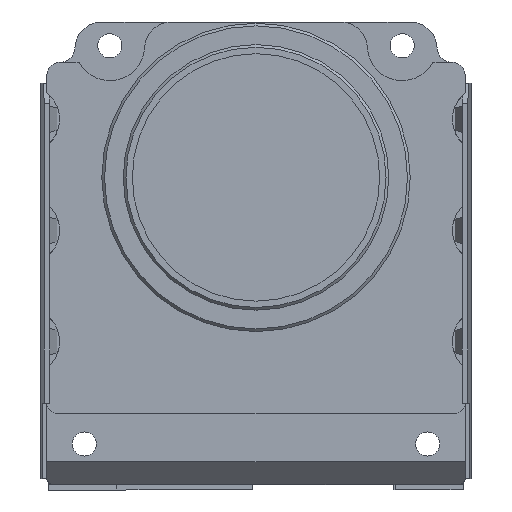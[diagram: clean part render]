
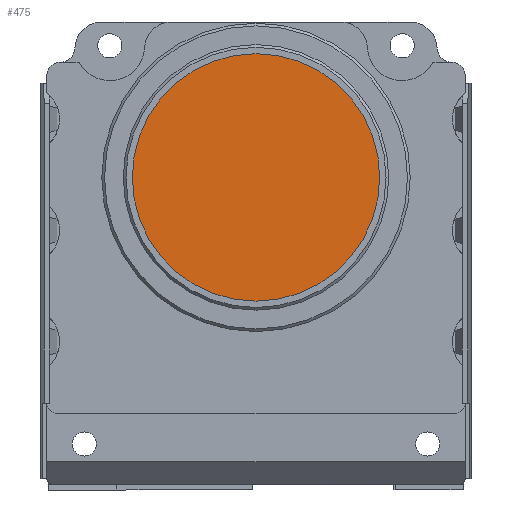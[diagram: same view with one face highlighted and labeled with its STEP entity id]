
A CAD part, front view. The second image highlights one B-rep face of the part: STEP entity #475.
In plain terms, the highlighted planar face has unit normal (0, -1, 0).
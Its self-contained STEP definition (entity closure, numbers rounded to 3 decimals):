
#475=ADVANCED_FACE('',(#1472),#1473,.T.);
#1472=FACE_OUTER_BOUND('',#2847,.T.);
#1473=PLANE('',#2848);
#2847=EDGE_LOOP('',(#6197));
#2848=AXIS2_PLACEMENT_3D('',#6198,#6199,#6200);
#6197=ORIENTED_EDGE('',*,*,#10064,.T.);
#6198=CARTESIAN_POINT('',(4.995,-13.582,-21.102));
#6199=DIRECTION('',(0.0,-1.0,0.0));
#6200=DIRECTION('',(-1.0,0.0,0.0));
#10064=EDGE_CURVE('',#12817,#12817,#12818,.T.);
#12817=VERTEX_POINT('',#16742);
#12818=CIRCLE('',#16743,9.225);
#16742=CARTESIAN_POINT('',(-4.23,-13.582,-21.102));
#16743=AXIS2_PLACEMENT_3D('',#19651,#19652,#19653);
#19651=CARTESIAN_POINT('',(4.995,-13.582,-21.102));
#19652=DIRECTION('',(0.0,-1.0,0.0));
#19653=DIRECTION('',(-1.0,0.0,0.0));
